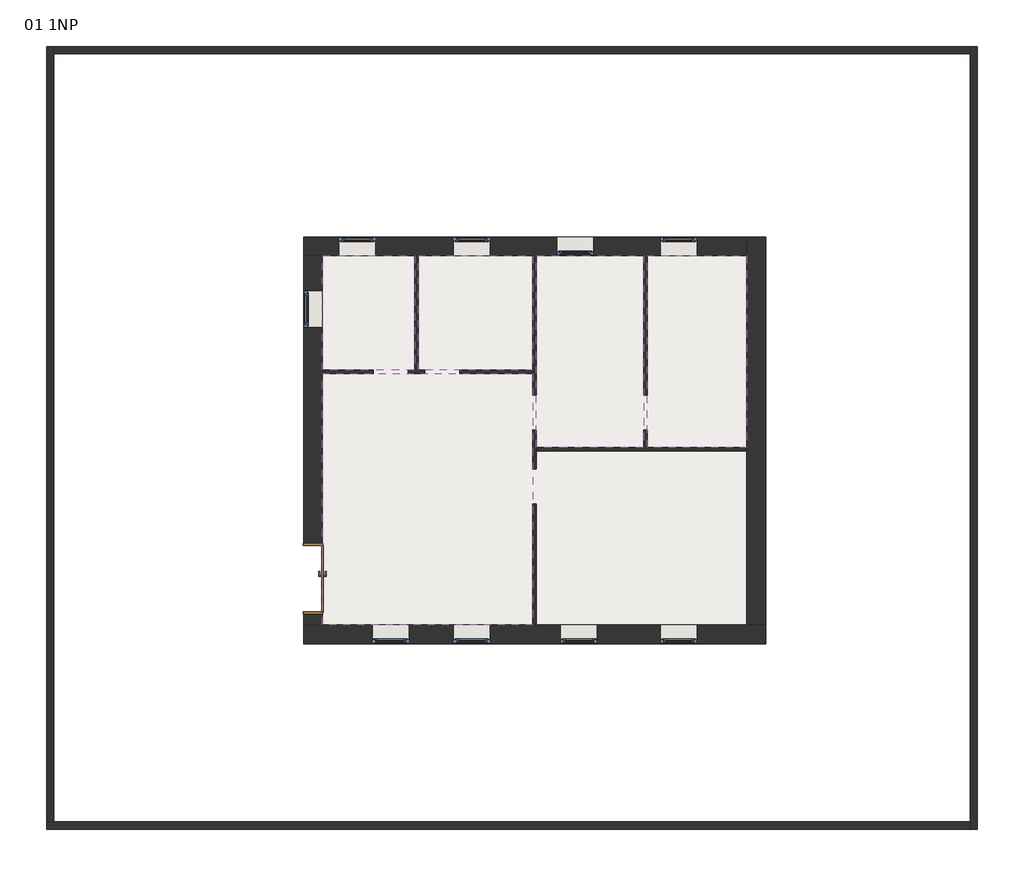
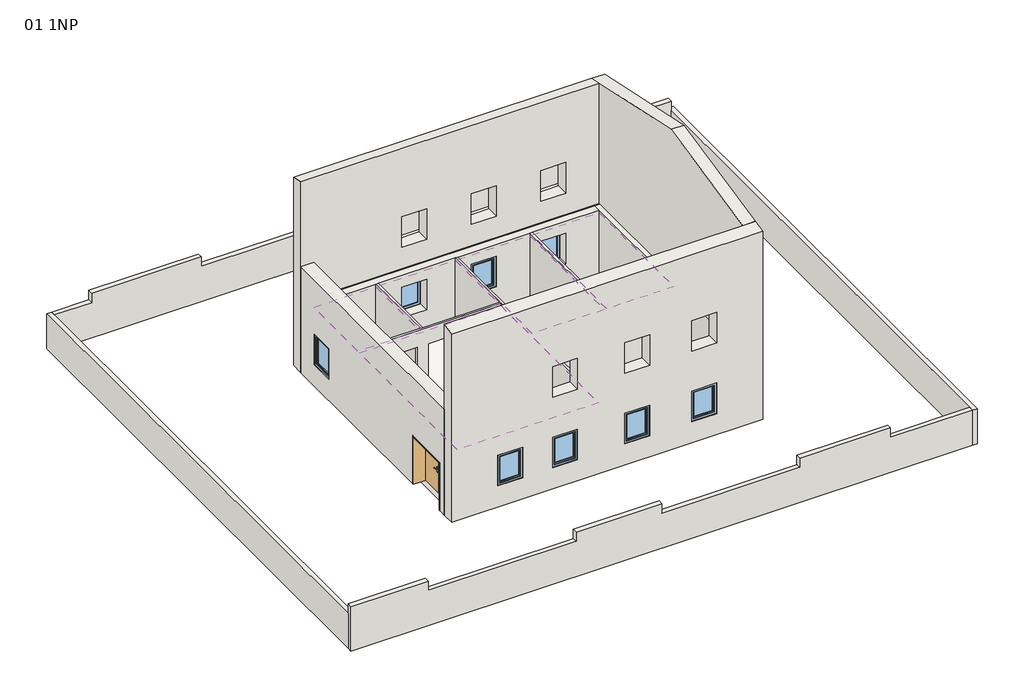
# One storey, incomplete: 13 walls, 9 windows, 6 coverings, 1 door, 1 slab.
"""IFC4 building model written with IfcOpenShell, lengths in millimetres."""

from ifc_helpers import new_model, si_unit, frame, origin, origin_with_axes, place, context, project, spatial, polyline, outline, extrude, faceted_brep, transform, mapped, element, save
from components import door_1800_x_2000_2bd13d9d, window_1000x1300_4b8b3f88, window_1000x1300_138def9d

model = new_model("IFC4")

# Units and contexts
model_context = context("Model", 3, world=origin())
ifc_project = project(units=[si_unit("LENGTHUNIT", "METRE", prefix="MILLI")], contexts=[model_context])

# Site, building, storey
site = spatial("IfcSite", under=ifc_project)
building = spatial("IfcBuilding", under=site)
storey = spatial("IfcBuildingStorey", under=building, Name="01 1NP", Elevation=0.0)

# Coverings
placement = place(None, origin())
element("IfcCovering", 1, ObjectType="Strop 1", at=placement, inside=storey, context=model_context, shape_type="SweptSolid", body=[
    extrude(outline(polyline([(30688.4387685, 21767.0937321), (28193.4387685, 21767.0937321), (28193.4387685, 24862.0937321), (30688.4387685, 24862.0937321), (30688.4387685, 21767.0937321)])), frame((0.0, 0.0, 2600.0), z_axis=(0.0, 0.0, 1.0), x_axis=(1.0, 0.0, 0.0)), (0.0, 0.0, 1.0), 100.0),
])
element("IfcCovering", 2, ObjectType="Strop 1", at=placement, inside=storey, context=model_context, shape_type="SweptSolid", body=[
    extrude(outline(polyline([(30688.4387685, 21767.0937321), (28193.4387685, 21767.0937321), (28193.4387685, 24862.0937321), (30688.4387685, 24862.0937321), (30688.4387685, 21767.0937321)])), frame((0.0, 0.0, 2600.0), z_axis=(0.0, 0.0, 1.0), x_axis=(1.0, 0.0, 0.0)), (0.0, 0.0, 1.0), 100.0),
])
element("IfcCovering", 3, ObjectType="Strop 1", at=placement, inside=storey, context=model_context, shape_type="SweptSolid", body=[
    extrude(outline(polyline([(30788.4387685, 21767.0937321), (30788.4387685, 24862.0937321), (33888.4387685, 24862.0937321), (33888.4387685, 21767.0937321), (30788.4387685, 21767.0937321)])), frame((0.0, 0.0, 2600.0), z_axis=(0.0, 0.0, 1.0), x_axis=(1.0, 0.0, 0.0)), (0.0, 0.0, 1.0), 100.0),
])
element("IfcCovering", 4, ObjectType="Strop 1", at=placement, inside=storey, context=model_context, shape_type="SweptSolid", body=[
    extrude(outline(polyline([(33988.4387685, 24862.0937321), (36888.4387685, 24862.0937321), (36888.4387685, 19667.0937321), (33988.4387685, 19667.0937321), (33988.4387685, 24862.0937321)])), frame((0.0, 0.0, 2600.0), z_axis=(0.0, 0.0, 1.0), x_axis=(1.0, 0.0, 0.0)), (0.0, 0.0, 1.0), 100.0),
])
element("IfcCovering", 5, ObjectType="Strop 1", at=placement, inside=storey, context=model_context, shape_type="SweptSolid", body=[
    extrude(outline(polyline([(36988.4387685, 24862.0937321), (39683.4387685, 24862.0937321), (39683.4387685, 19667.0937321), (36988.4387685, 19667.0937321), (36988.4387685, 24862.0937321)])), frame((0.0, 0.0, 2600.0), z_axis=(0.0, 0.0, 1.0), x_axis=(1.0, 0.0, 0.0)), (0.0, 0.0, 1.0), 100.0),
])
element("IfcCovering", 6, ObjectType="Strop 1", at=placement, inside=storey, context=model_context, shape_type="SweptSolid", body=[
    extrude(outline(polyline([(33888.4387685, 21667.0937321), (33888.4387685, 14862.0937321), (28193.4387685, 14862.0937321), (28193.4387685, 21667.0937321), (33888.4387685, 21667.0937321)])), frame((0.0, 0.0, 2600.0), z_axis=(0.0, 0.0, 1.0), x_axis=(1.0, 0.0, 0.0)), (0.0, 0.0, 1.0), 100.0),
])

# Door
door_1800_x_2000_shape = door_1800_x_2000_2bd13d9d(model_context)
element("IfcDoor", 7, ObjectType="Dvoukridle oboustrana zaruben : 1800 x 2000", at=placement, inside=storey, context=model_context, shape_type="MappedRepresentation", body=[
    mapped(door_1800_x_2000_shape, transform((27938.4387685, 16097.0937321, 0.0), x_axis=(0.0, -1.0, 0.0), y_axis=(1.0, 0.0, 0.0), z_axis=(0.0, 0.0, 1.0))),
])

# Slab
element("IfcSlab", 8, ObjectType="Standardní 300 mm", at=placement, inside=storey, context=model_context, shape_type="SweptSolid", body=[
    extrude(outline(polyline([(28183.4387685, 14852.0937321), (28183.4387685, 24872.0937321), (39693.4387685, 24872.0937321), (39693.4387685, 14852.0937321), (28183.4387685, 14852.0937321)])), frame((0.0, 0.0, -300.0), z_axis=(0.0, 0.0, 1.0), x_axis=(1.0, 0.0, 0.0)), (0.0, 0.0, 1.0), 300.0),
])

# Walls
element("IfcWall", 9, ObjectType="SENDWIX L 510mm", at=placement, inside=storey, context=model_context, shape_type="Brep", body=[
    faceted_brep([(27683.4387685, 14352.0937321, 0.0), (40193.4387685, 14352.0937321, 0.0), (40193.4387685, 14352.0937321, 8000.0), (27683.4387685, 14352.0937321, 8000.0), (29538.4387685, 14352.0937321, 2200.0), (30538.4387685, 14352.0937321, 2200.0), (30538.4387685, 14352.0937321, 900.0), (29538.4387685, 14352.0937321, 900.0), (32738.4387685, 14352.0937321, 2200.0), (32738.4387685, 14352.0937321, 900.0), (31738.4387685, 14352.0937321, 900.0), (31738.4387685, 14352.0937321, 2200.0), (35638.4387685, 14352.0937321, 2200.0), (35638.4387685, 14352.0937321, 900.0), (34638.4387685, 14352.0937321, 900.0), (34638.4387685, 14352.0937321, 2200.0), (38338.4387685, 14352.0937321, 2200.0), (38338.4387685, 14352.0937321, 900.0), (37338.4387685, 14352.0937321, 900.0), (37338.4387685, 14352.0937321, 2200.0), (32738.4387685, 14352.0937321, 5200.0), (32738.4387685, 14352.0937321, 3900.0), (31738.4387685, 14352.0937321, 3900.0), (31738.4387685, 14352.0937321, 5200.0), (35638.4387685, 14352.0937321, 5200.0), (35638.4387685, 14352.0937321, 3900.0), (34638.4387685, 14352.0937321, 3900.0), (34638.4387685, 14352.0937321, 5200.0), (38338.4387685, 14352.0937321, 5200.0), (38338.4387685, 14352.0937321, 3900.0), (37338.4387685, 14352.0937321, 3900.0), (37338.4387685, 14352.0937321, 5200.0), (40193.4387685, 14862.0937321, 0.0), (39683.4387685, 14862.0937321, 0.0), (33988.4387685, 14862.0937321, 0.0), (33888.4387685, 14862.0937321, 0.0), (28193.4387685, 14862.0937321, 0.0), (27683.4387685, 14862.0937321, 0.0), (27683.4387685, 14862.0937321, 4500.0), (27683.4387685, 14862.0937321, 8108.4038465), (39683.4387685, 14862.0937321, 8108.4038465), (40193.4387685, 14862.0937321, 8108.4038465), (30538.4387685, 14862.0937321, 2200.0), (29538.4387685, 14862.0937321, 2200.0), (29538.4387685, 14862.0937321, 900.0), (30538.4387685, 14862.0937321, 900.0), (32738.4387685, 14862.0937321, 900.0), (32738.4387685, 14862.0937321, 2200.0), (31738.4387685, 14862.0937321, 2200.0), (31738.4387685, 14862.0937321, 900.0), (35638.4387685, 14862.0937321, 900.0), (35638.4387685, 14862.0937321, 2200.0), (34638.4387685, 14862.0937321, 2200.0), (34638.4387685, 14862.0937321, 900.0), (38338.4387685, 14862.0937321, 900.0), (38338.4387685, 14862.0937321, 2200.0), (37338.4387685, 14862.0937321, 2200.0), (37338.4387685, 14862.0937321, 900.0), (32738.4387685, 14862.0937321, 3900.0), (32738.4387685, 14862.0937321, 5200.0), (31738.4387685, 14862.0937321, 5200.0), (31738.4387685, 14862.0937321, 3900.0), (35638.4387685, 14862.0937321, 3900.0), (35638.4387685, 14862.0937321, 5200.0), (34638.4387685, 14862.0937321, 5200.0), (34638.4387685, 14862.0937321, 3900.0), (38338.4387685, 14862.0937321, 3900.0), (38338.4387685, 14862.0937321, 5200.0), (37338.4387685, 14862.0937321, 5200.0), (37338.4387685, 14862.0937321, 3900.0), (27883.4387685, 14862.0937321, 2700.0), (28193.4387685, 14862.0937321, 2700.0), (33888.4387685, 14862.0937321, 2700.0), (33988.4387685, 14862.0937321, 2700.0), (39683.4387685, 14862.0937321, 2700.0), (39993.4387685, 14862.0937321, 2700.0), (39993.4387685, 14862.0937321, 3000.0), (39683.4387685, 14862.0937321, 3000.0), (28193.4387685, 14862.0937321, 3000.0), (27883.4387685, 14862.0937321, 3000.0), (27883.4387685, 14552.0937321, 2700.0), (39993.4387685, 14552.0937321, 2700.0), (39993.4387685, 14552.0937321, 3000.0), (27883.4387685, 14552.0937321, 3000.0)], [[[0, 1, 2, 3], [4, 5, 6, 7], [8, 9, 10, 11], [12, 13, 14, 15], [16, 17, 18, 19], [20, 21, 22, 23], [24, 25, 26, 27], [28, 29, 30, 31]], [[32, 33, 34, 35, 36, 37, 38, 39, 40, 41], [42, 43, 44, 45], [46, 47, 48, 49], [50, 51, 52, 53], [54, 55, 56, 57], [58, 59, 60, 61], [62, 63, 64, 65], [66, 67, 68, 69], [70, 71, 72, 73, 74, 75, 76, 77, 78, 79]], [[1, 0, 37, 36, 35, 34, 33, 32]], [[0, 3, 39, 38, 37]], [[2, 1, 32, 41]], [[3, 2, 41, 40, 39]], [[43, 4, 7, 44]], [[4, 43, 42, 5]], [[5, 42, 45, 6]], [[6, 45, 44, 7]], [[47, 46, 9, 8]], [[48, 47, 8, 11]], [[49, 48, 11, 10]], [[46, 49, 10, 9]], [[51, 50, 13, 12]], [[52, 51, 12, 15]], [[53, 52, 15, 14]], [[50, 53, 14, 13]], [[55, 54, 17, 16]], [[56, 55, 16, 19]], [[57, 56, 19, 18]], [[54, 57, 18, 17]], [[59, 58, 21, 20]], [[60, 59, 20, 23]], [[61, 60, 23, 22]], [[58, 61, 22, 21]], [[63, 62, 25, 24]], [[64, 63, 24, 27]], [[65, 64, 27, 26]], [[62, 65, 26, 25]], [[67, 66, 29, 28]], [[68, 67, 28, 31]], [[69, 68, 31, 30]], [[66, 69, 30, 29]], [[80, 81, 75, 74, 73, 72, 71, 70]], [[82, 83, 79, 78, 77, 76]], [[83, 80, 70, 79]], [[81, 82, 76, 75]], [[81, 80, 83, 82]]]),
])
element("IfcWall", 10, ObjectType="SENDWIX L 510mm", at=placement, inside=storey, context=model_context, shape_type="Brep", body=[
    faceted_brep([(27683.4387685, 14862.0937321, 4500.0), (27683.4387685, 24862.0937321, 4500.0), (27683.4387685, 24862.0937321, 0.0), (27683.4387685, 17067.0937321, 0.0), (27683.4387685, 17067.0937321, 2050.0), (27683.4387685, 15167.0937321, 2050.0), (27683.4387685, 15167.0937321, 0.0), (27683.4387685, 14862.0937321, 0.0), (27683.4387685, 22917.0937321, 2200.0), (27683.4387685, 22917.0937321, 900.0), (27683.4387685, 23917.0937321, 900.0), (27683.4387685, 23917.0937321, 2200.0), (28193.4387685, 24862.0937321, 4500.0), (28193.4387685, 14862.0937321, 4500.0), (28193.4387685, 14862.0937321, 3000.0), (28193.4387685, 24862.0937321, 3000.0), (28193.4387685, 15167.0937321, 0.0), (28193.4387685, 15167.0937321, 2050.0), (28193.4387685, 17067.0937321, 2050.0), (28193.4387685, 17067.0937321, 0.0), (28193.4387685, 21667.0937321, 0.0), (28193.4387685, 21767.0937321, 0.0), (28193.4387685, 24862.0937321, 0.0), (28193.4387685, 24862.0937321, 2700.0), (28193.4387685, 21767.0937321, 2700.0), (28193.4387685, 21667.0937321, 2700.0), (28193.4387685, 14862.0937321, 2700.0), (28193.4387685, 14862.0937321, 0.0), (28193.4387685, 22917.0937321, 900.0), (28193.4387685, 22917.0937321, 2200.0), (28193.4387685, 23917.0937321, 2200.0), (28193.4387685, 23917.0937321, 900.0), (27883.4387685, 24862.0937321, 3000.0), (27883.4387685, 24862.0937321, 2700.0), (27883.4387685, 14862.0937321, 2700.0), (27883.4387685, 14862.0937321, 3000.0)], [[[0, 1, 2, 3, 4, 5, 6, 7], [8, 9, 10, 11]], [[12, 13, 14, 15]], [[16, 17, 18, 19, 20, 21, 22, 23, 24, 25, 26, 27], [28, 29, 30, 31]], [[2, 22, 21, 20, 19, 3]], [[27, 7, 6, 16]], [[1, 0, 13, 12]], [[2, 1, 12, 15, 32, 33, 23, 22]], [[0, 7, 27, 26, 34, 35, 14, 13]], [[17, 16, 6, 5]], [[18, 17, 5, 4]], [[19, 18, 4, 3]], [[29, 28, 9, 8]], [[30, 29, 8, 11]], [[31, 30, 11, 10]], [[28, 31, 10, 9]], [[33, 34, 26, 25, 24, 23]], [[35, 32, 15, 14]], [[34, 33, 32, 35]]]),
])
element("IfcWall", 11, ObjectType="SENDWIX L 510mm", at=placement, inside=storey, context=model_context, shape_type="Brep", body=[
    faceted_brep([(39683.4387685, 25372.0937321, 0.0), (27683.4387685, 25372.0937321, 0.0), (27683.4387685, 25372.0937321, 8000.0), (39683.4387685, 25372.0937321, 8000.0), (29638.4387685, 25372.0937321, 2200.0), (28638.4387685, 25372.0937321, 2200.0), (28638.4387685, 25372.0937321, 900.0), (29638.4387685, 25372.0937321, 900.0), (32738.4387685, 25372.0937321, 900.0), (32738.4387685, 25372.0937321, 2200.0), (31738.4387685, 25372.0937321, 2200.0), (31738.4387685, 25372.0937321, 900.0), (35538.4387685, 25372.0937321, 900.0), (35538.4387685, 25372.0937321, 2200.0), (34538.4387685, 25372.0937321, 2200.0), (34538.4387685, 25372.0937321, 900.0), (38338.4387685, 25372.0937321, 900.0), (38338.4387685, 25372.0937321, 2200.0), (37338.4387685, 25372.0937321, 2200.0), (37338.4387685, 25372.0937321, 900.0), (32738.4387685, 25372.0937321, 3900.0), (32738.4387685, 25372.0937321, 5200.0), (31738.4387685, 25372.0937321, 5200.0), (31738.4387685, 25372.0937321, 3900.0), (35538.4387685, 25372.0937321, 3900.0), (35538.4387685, 25372.0937321, 5200.0), (34538.4387685, 25372.0937321, 5200.0), (34538.4387685, 25372.0937321, 3900.0), (38338.4387685, 25372.0937321, 3900.0), (38338.4387685, 25372.0937321, 5200.0), (37338.4387685, 25372.0937321, 5200.0), (37338.4387685, 25372.0937321, 3900.0), (27683.4387685, 24862.0937321, 0.0), (28193.4387685, 24862.0937321, 0.0), (30688.4387685, 24862.0937321, 0.0), (30788.4387685, 24862.0937321, 0.0), (33888.4387685, 24862.0937321, 0.0), (33988.4387685, 24862.0937321, 0.0), (36888.4387685, 24862.0937321, 0.0), (36988.4387685, 24862.0937321, 0.0), (39683.4387685, 24862.0937321, 0.0), (39683.4387685, 24862.0937321, 2700.0), (36988.4387685, 24862.0937321, 2700.0), (36888.4387685, 24862.0937321, 2700.0), (33988.4387685, 24862.0937321, 2700.0), (33888.4387685, 24862.0937321, 2700.0), (30788.4387685, 24862.0937321, 2700.0), (30688.4387685, 24862.0937321, 2700.0), (28193.4387685, 24862.0937321, 2700.0), (27883.4387685, 24862.0937321, 2700.0), (27883.4387685, 24862.0937321, 3000.0), (28193.4387685, 24862.0937321, 3000.0), (39683.4387685, 24862.0937321, 3000.0), (39683.4387685, 24862.0937321, 8108.4038465), (27683.4387685, 24862.0937321, 8108.4038465), (27683.4387685, 24862.0937321, 4500.0), (28638.4387685, 24862.0937321, 2200.0), (29638.4387685, 24862.0937321, 2200.0), (29638.4387685, 24862.0937321, 900.0), (28638.4387685, 24862.0937321, 900.0), (32738.4387685, 24862.0937321, 2200.0), (32738.4387685, 24862.0937321, 900.0), (31738.4387685, 24862.0937321, 900.0), (31738.4387685, 24862.0937321, 2200.0), (35538.4387685, 24862.0937321, 2200.0), (35538.4387685, 24862.0937321, 900.0), (34538.4387685, 24862.0937321, 900.0), (34538.4387685, 24862.0937321, 2200.0), (38338.4387685, 24862.0937321, 2200.0), (38338.4387685, 24862.0937321, 900.0), (37338.4387685, 24862.0937321, 900.0), (37338.4387685, 24862.0937321, 2200.0), (32738.4387685, 24862.0937321, 5200.0), (32738.4387685, 24862.0937321, 3900.0), (31738.4387685, 24862.0937321, 3900.0), (31738.4387685, 24862.0937321, 5200.0), (35538.4387685, 24862.0937321, 5200.0), (35538.4387685, 24862.0937321, 3900.0), (34538.4387685, 24862.0937321, 3900.0), (34538.4387685, 24862.0937321, 5200.0), (38338.4387685, 24862.0937321, 5200.0), (38338.4387685, 24862.0937321, 3900.0), (37338.4387685, 24862.0937321, 3900.0), (37338.4387685, 24862.0937321, 5200.0), (39683.4387685, 25172.0937321, 3000.0), (39683.4387685, 25172.0937321, 2700.0), (27883.4387685, 25172.0937321, 2700.0), (27883.4387685, 25172.0937321, 3000.0)], [[[0, 1, 2, 3], [4, 5, 6, 7], [8, 9, 10, 11], [12, 13, 14, 15], [16, 17, 18, 19], [20, 21, 22, 23], [24, 25, 26, 27], [28, 29, 30, 31]], [[32, 33, 34, 35, 36, 37, 38, 39, 40, 41, 42, 43, 44, 45, 46, 47, 48, 49, 50, 51, 52, 53, 54, 55], [56, 57, 58, 59], [60, 61, 62, 63], [64, 65, 66, 67], [68, 69, 70, 71], [72, 73, 74, 75], [76, 77, 78, 79], [80, 81, 82, 83]], [[1, 0, 40, 39, 38, 37, 36, 35, 34, 33, 32]], [[2, 1, 32, 55, 54]], [[0, 3, 53, 52, 84, 85, 41, 40]], [[3, 2, 54, 53]], [[5, 56, 59, 6]], [[56, 5, 4, 57]], [[57, 4, 7, 58]], [[58, 7, 6, 59]], [[9, 8, 61, 60]], [[10, 9, 60, 63]], [[11, 10, 63, 62]], [[8, 11, 62, 61]], [[13, 12, 65, 64]], [[14, 13, 64, 67]], [[15, 14, 67, 66]], [[12, 15, 66, 65]], [[17, 16, 69, 68]], [[18, 17, 68, 71]], [[19, 18, 71, 70]], [[16, 19, 70, 69]], [[21, 20, 73, 72]], [[22, 21, 72, 75]], [[23, 22, 75, 74]], [[20, 23, 74, 73]], [[25, 24, 77, 76]], [[26, 25, 76, 79]], [[27, 26, 79, 78]], [[24, 27, 78, 77]], [[29, 28, 81, 80]], [[30, 29, 80, 83]], [[31, 30, 83, 82]], [[28, 31, 82, 81]], [[85, 86, 49, 48, 47, 46, 45, 44, 43, 42, 41]], [[50, 87, 84, 52, 51]], [[86, 87, 50, 49]], [[87, 86, 85, 84]]]),
])
element("IfcWall", 12, ObjectType="SENDWIX L 510mm", at=placement, inside=storey, context=model_context, shape_type="Brep", body=[
    faceted_brep([(40193.4387685, 14862.0937321, 0.0), (40193.4387685, 25372.0937321, 0.0), (40193.4387685, 25372.0937321, 8000.0), (40193.4387685, 19862.0937321, 9171.1866548), (40193.4387685, 14862.0937321, 8108.4038465), (39683.4387685, 25372.0937321, 0.0), (39683.4387685, 24862.0937321, 0.0), (39683.4387685, 19667.0937321, 0.0), (39683.4387685, 19567.0937321, 0.0), (39683.4387685, 14862.0937321, 0.0), (39683.4387685, 14862.0937321, 2700.0), (39683.4387685, 19567.0937321, 2700.0), (39683.4387685, 19667.0937321, 2700.0), (39683.4387685, 24862.0937321, 2700.0), (39683.4387685, 25172.0937321, 2700.0), (39683.4387685, 25172.0937321, 3000.0), (39683.4387685, 24862.0937321, 3000.0), (39683.4387685, 14862.0937321, 3000.0), (39683.4387685, 14862.0937321, 8108.4038465), (39683.4387685, 19862.0937321, 9171.1866548), (39683.4387685, 24862.0937321, 8108.4038465), (39683.4387685, 25372.0937321, 8000.0), (39993.4387685, 14862.0937321, 3000.0), (39993.4387685, 14862.0937321, 2700.0), (39993.4387685, 25172.0937321, 2700.0), (39993.4387685, 25172.0937321, 3000.0)], [[[0, 1, 2, 3, 4]], [[5, 6, 7, 8, 9, 10, 11, 12, 13, 14, 15, 16, 17, 18, 19, 20, 21]], [[1, 0, 9, 8, 7, 6, 5]], [[2, 1, 5, 21]], [[0, 4, 18, 17, 22, 23, 10, 9]], [[18, 4, 3, 19]], [[2, 21, 20, 19, 3]], [[23, 24, 14, 13, 12, 11, 10]], [[15, 25, 22, 17, 16]], [[24, 25, 15, 14]], [[25, 24, 23, 22]]]),
])
element("IfcWall", 13, ObjectType="Standardní 100mm", at=placement, inside=storey, context=model_context, shape_type="Brep", body=[
    faceted_brep([(33988.4387685, 14862.0937321, 0.0), (33988.4387685, 18142.0937321, 0.0), (33988.4387685, 18142.0937321, 2020.0), (33988.4387685, 19092.0937321, 2020.0), (33988.4387685, 19092.0937321, 0.0), (33988.4387685, 19567.0937321, 0.0), (33988.4387685, 19667.0937321, 0.0), (33988.4387685, 20142.0937321, 0.0), (33988.4387685, 20142.0937321, 2020.0), (33988.4387685, 21092.0937321, 2020.0), (33988.4387685, 21092.0937321, 0.0), (33988.4387685, 24862.0937321, 0.0), (33988.4387685, 24862.0937321, 2700.0), (33988.4387685, 19667.0937321, 2700.0), (33988.4387685, 19567.0937321, 2700.0), (33988.4387685, 14862.0937321, 2700.0), (33888.4387685, 18142.0937321, 2020.0), (33888.4387685, 18142.0937321, 0.0), (33888.4387685, 14862.0937321, 0.0), (33888.4387685, 14862.0937321, 2700.0), (33888.4387685, 21667.0937321, 2700.0), (33888.4387685, 21767.0937321, 2700.0), (33888.4387685, 24862.0937321, 2700.0), (33888.4387685, 24862.0937321, 0.0), (33888.4387685, 21767.0937321, 0.0), (33888.4387685, 21667.0937321, 0.0), (33888.4387685, 21092.0937321, 0.0), (33888.4387685, 21092.0937321, 2020.0), (33888.4387685, 20142.0937321, 2020.0), (33888.4387685, 20142.0937321, 0.0), (33888.4387685, 19092.0937321, 0.0), (33888.4387685, 19092.0937321, 2020.0)], [[[0, 1, 2, 3, 4, 5, 6, 7, 8, 9, 10, 11, 12, 13, 14, 15]], [[16, 17, 18, 19, 20, 21, 22, 23, 24, 25, 26, 27, 28, 29, 30, 31]], [[11, 10, 26, 25, 24, 23]], [[18, 17, 1, 0]], [[30, 29, 7, 6, 5, 4]], [[0, 15, 19, 18]], [[12, 11, 23, 22]], [[15, 14, 13, 12, 22, 21, 20, 19]], [[27, 26, 10, 9]], [[28, 27, 9, 8]], [[29, 28, 8, 7]], [[2, 1, 17, 16]], [[3, 2, 16, 31]], [[4, 3, 31, 30]]]),
])
element("IfcWall", 14, ObjectType="Standardní 100mm", at=placement, inside=storey, context=model_context, shape_type="Brep", body=[
    faceted_brep([(33988.4387685, 19567.0937321, 0.0), (39683.4387685, 19567.0937321, 0.0), (39683.4387685, 19567.0937321, 2700.0), (33988.4387685, 19567.0937321, 2700.0), (33988.4387685, 19667.0937321, 0.0), (33988.4387685, 19667.0937321, 2700.0), (36888.4387685, 19667.0937321, 2700.0), (36988.4387685, 19667.0937321, 2700.0), (39683.4387685, 19667.0937321, 2700.0), (39683.4387685, 19667.0937321, 0.0), (36988.4387685, 19667.0937321, 0.0), (36888.4387685, 19667.0937321, 0.0)], [[[0, 1, 2, 3]], [[4, 5, 6, 7, 8, 9, 10, 11]], [[1, 0, 4, 11, 10, 9]], [[2, 1, 9, 8]], [[0, 3, 5, 4]], [[3, 2, 8, 7, 6, 5]]]),
])
element("IfcWall", 15, ObjectType="Standardní 100mm", at=placement, inside=storey, context=model_context, shape_type="Brep", body=[
    faceted_brep([(31913.4387685, 21667.0937321, 2020.0), (31913.4387685, 21667.0937321, 0.0), (33888.4387685, 21667.0937321, 0.0), (33888.4387685, 21667.0937321, 2700.0), (28193.4387685, 21667.0937321, 2700.0), (28193.4387685, 21667.0937321, 0.0), (29563.4387685, 21667.0937321, 0.0), (29563.4387685, 21667.0937321, 2020.0), (30513.4387685, 21667.0937321, 2020.0), (30513.4387685, 21667.0937321, 0.0), (30963.4387685, 21667.0937321, 0.0), (30963.4387685, 21667.0937321, 2020.0), (33888.4387685, 21767.0937321, 0.0), (31913.4387685, 21767.0937321, 0.0), (31913.4387685, 21767.0937321, 2020.0), (30963.4387685, 21767.0937321, 2020.0), (30963.4387685, 21767.0937321, 0.0), (30788.4387685, 21767.0937321, 0.0), (30688.4387685, 21767.0937321, 0.0), (30513.4387685, 21767.0937321, 0.0), (30513.4387685, 21767.0937321, 2020.0), (29563.4387685, 21767.0937321, 2020.0), (29563.4387685, 21767.0937321, 0.0), (28193.4387685, 21767.0937321, 0.0), (28193.4387685, 21767.0937321, 2700.0), (30688.4387685, 21767.0937321, 2700.0), (30788.4387685, 21767.0937321, 2700.0), (33888.4387685, 21767.0937321, 2700.0)], [[[0, 1, 2, 3, 4, 5, 6, 7, 8, 9, 10, 11]], [[12, 13, 14, 15, 16, 17, 18, 19, 20, 21, 22, 23, 24, 25, 26, 27]], [[23, 22, 6, 5]], [[2, 1, 13, 12]], [[10, 9, 19, 18, 17, 16]], [[5, 4, 24, 23]], [[3, 2, 12, 27]], [[4, 3, 27, 26, 25, 24]], [[7, 6, 22, 21]], [[8, 7, 21, 20]], [[9, 8, 20, 19]], [[14, 13, 1, 0]], [[15, 14, 0, 11]], [[16, 15, 11, 10]]]),
])
element("IfcWall", 16, ObjectType="Standardní 100mm", at=placement, inside=storey, context=model_context, shape_type="SweptSolid", body=[
    extrude(outline(polyline([(30688.4387685, 21767.0937321), (30688.4387685, 24862.0937321), (30788.4387685, 24862.0937321), (30788.4387685, 21767.0937321), (30688.4387685, 21767.0937321)])), origin_with_axes(), (0.0, 0.0, 1.0), 2700.0),
])
element("IfcWall", 17, ObjectType="Standardní 100mm", at=placement, inside=storey, context=model_context, shape_type="SweptSolid", body=[
    extrude(outline(polyline([(24862.0937321, 0.0), (21092.0937321, 0.0), (21092.0937321, 2020.0), (20142.0937321, 2020.0), (20142.0937321, 0.0), (19667.0937321, 0.0), (19667.0937321, 2700.0), (24862.0937321, 2700.0), (24862.0937321, 0.0)])), frame((36888.4387685, 0.0, 0.0), z_axis=(1.0, 0.0, 0.0), x_axis=(0.0, 1.0, 0.0)), (0.0, 0.0, 1.0), 100.0),
])
element("IfcWall", 18, ObjectType="Standardní 200mm", at=placement, inside=storey, context=model_context, shape_type="Brep", body=[
    faceted_brep([(20725.9805266, 9328.6746837, 0.0), (45725.9805266, 9328.6746837, 0.0), (45725.9805266, 9328.6746837, 1500.0), (42425.9805266, 9328.6746837, 1500.0), (42425.9805266, 9328.6746837, 1900.0), (38769.4032946, 9328.6746837, 1900.0), (38769.4032946, 9328.6746837, 1500.0), (33236.1851019, 9328.6746837, 1500.0), (33236.1851019, 9328.6746837, 1900.0), (29781.1194066, 9328.6746837, 1900.0), (29781.1194066, 9328.6746837, 1500.0), (23838.5703533, 9328.6746837, 1500.0), (23838.5703533, 9328.6746837, 1900.0), (20725.9805266, 9328.6746837, 1900.0), (20725.9805266, 9528.6746837, 0.0), (20725.9805266, 9528.6746837, 1500.0), (20725.9805266, 9528.6746837, 1900.0), (23838.5703533, 9528.6746837, 1900.0), (23838.5703533, 9528.6746837, 1500.0), (29781.1194066, 9528.6746837, 1500.0), (29781.1194066, 9528.6746837, 1900.0), (33236.1851019, 9528.6746837, 1900.0), (33236.1851019, 9528.6746837, 1500.0), (38769.4032946, 9528.6746837, 1500.0), (38769.4032946, 9528.6746837, 1900.0), (42425.9805266, 9528.6746837, 1900.0), (42425.9805266, 9528.6746837, 1500.0), (45725.9805266, 9528.6746837, 1500.0), (45725.9805266, 9528.6746837, 0.0), (20925.9805266, 9528.6746837, 0.0)], [[[0, 1, 2, 3, 4, 5, 6, 7, 8, 9, 10, 11, 12, 13]], [[14, 15, 16, 17, 18, 19, 20, 21, 22, 23, 24, 25, 26, 27, 28, 29]], [[1, 0, 14, 29, 28]], [[3, 2, 27, 26]], [[4, 3, 26, 25]], [[5, 4, 25, 24]], [[6, 5, 24, 23]], [[7, 6, 23, 22]], [[8, 7, 22, 21]], [[9, 8, 21, 20]], [[10, 9, 20, 19]], [[11, 10, 19, 18]], [[12, 11, 18, 17]], [[13, 12, 17, 16]], [[0, 13, 16, 15, 14]], [[2, 1, 28, 27]]]),
])
element("IfcWall", 19, ObjectType="Standardní 200mm", at=placement, inside=storey, context=model_context, shape_type="Brep", body=[
    faceted_brep([(20725.9805266, 30528.6746837, 0.0), (20725.9805266, 9528.6746837, 0.0), (20725.9805266, 9528.6746837, 1500.0), (20725.9805266, 30528.6746837, 1500.0), (20925.9805266, 30528.6746837, 0.0), (20925.9805266, 30528.6746837, 1500.0), (20925.9805266, 30328.6746837, 1500.0), (20925.9805266, 9528.6746837, 1500.0), (20925.9805266, 9528.6746837, 0.0), (20925.9805266, 30328.6746837, 0.0)], [[[0, 1, 2, 3]], [[4, 5, 6, 7, 8, 9]], [[1, 0, 4, 9, 8]], [[3, 2, 7, 6, 5]], [[0, 3, 5, 4]], [[2, 1, 8, 7]]]),
])
element("IfcWall", 20, ObjectType="Standardní 200mm", at=placement, inside=storey, context=model_context, shape_type="Brep", body=[
    faceted_brep([(45725.9805266, 30528.6746837, 0.0), (20925.9805266, 30528.6746837, 0.0), (20925.9805266, 30528.6746837, 1500.0), (22425.9805266, 30528.6746837, 1500.0), (22425.9805266, 30528.6746837, 1900.0), (26825.9805266, 30528.6746837, 1900.0), (26825.9805266, 30528.6746837, 1500.0), (31825.9805266, 30528.6746837, 1500.0), (31825.9805266, 30528.6746837, 1900.0), (36425.9805266, 30528.6746837, 1900.0), (36425.9805266, 30528.6746837, 1500.0), (42425.9805266, 30528.6746837, 1500.0), (42425.9805266, 30528.6746837, 1900.0), (45725.9805266, 30528.6746837, 1900.0), (45725.9805266, 30528.6746837, 1500.0), (45725.9805266, 30328.6746837, 0.0), (45725.9805266, 30328.6746837, 1900.0), (42425.9805266, 30328.6746837, 1900.0), (42425.9805266, 30328.6746837, 1500.0), (36425.9805266, 30328.6746837, 1500.0), (36425.9805266, 30328.6746837, 1900.0), (31825.9805266, 30328.6746837, 1900.0), (31825.9805266, 30328.6746837, 1500.0), (26825.9805266, 30328.6746837, 1500.0), (26825.9805266, 30328.6746837, 1900.0), (22425.9805266, 30328.6746837, 1900.0), (22425.9805266, 30328.6746837, 1500.0), (20925.9805266, 30328.6746837, 1500.0), (20925.9805266, 30328.6746837, 0.0)], [[[0, 1, 2, 3, 4, 5, 6, 7, 8, 9, 10, 11, 12, 13, 14]], [[15, 16, 17, 18, 19, 20, 21, 22, 23, 24, 25, 26, 27, 28]], [[1, 0, 15, 28]], [[3, 2, 27, 26]], [[4, 3, 26, 25]], [[5, 4, 25, 24]], [[6, 5, 24, 23]], [[7, 6, 23, 22]], [[8, 7, 22, 21]], [[9, 8, 21, 20]], [[10, 9, 20, 19]], [[11, 10, 19, 18]], [[12, 11, 18, 17]], [[13, 12, 17, 16]], [[2, 1, 28, 27]], [[0, 14, 13, 16, 15]]]),
])
element("IfcWall", 21, ObjectType="Standardní 200mm", at=placement, inside=storey, context=model_context, shape_type="Brep", body=[
    faceted_brep([(45925.9805266, 9328.6746837, 0.0), (45925.9805266, 30528.6746837, 0.0), (45925.9805266, 30528.6746837, 1500.0), (45925.9805266, 9328.6746837, 1500.0), (45725.9805266, 9328.6746837, 0.0), (45725.9805266, 9328.6746837, 1500.0), (45725.9805266, 9528.6746837, 1500.0), (45725.9805266, 30528.6746837, 1500.0), (45725.9805266, 30528.6746837, 0.0), (45725.9805266, 30328.6746837, 0.0), (45725.9805266, 9528.6746837, 0.0)], [[[0, 1, 2, 3]], [[4, 5, 6, 7, 8, 9, 10]], [[1, 0, 4, 10, 9, 8]], [[3, 2, 7, 6, 5]], [[0, 3, 5, 4]], [[2, 1, 8, 7]]]),
])

# Windows
window_1000x1300_shape = window_1000x1300_4b8b3f88(model_context)
element("IfcWindow", 22, ObjectType="Jednokridlove rovne : 1000x1300", at=placement, inside=storey, context=model_context, shape_type="MappedRepresentation", body=[
    mapped(window_1000x1300_shape, transform((29138.4387685, 25117.0937321, 0.0), x_axis=(1.0, 0.0, 0.0), y_axis=(0.0, 1.0, 0.0), z_axis=(0.0, 0.0, 1.0))),
])
element("IfcWindow", 23, ObjectType="Jednokridlove rovne : 1000x1300", at=placement, inside=storey, context=model_context, shape_type="MappedRepresentation", body=[
    mapped(window_1000x1300_shape, transform((27938.4387685, 23417.0937321, 0.0), x_axis=(0.0, 1.0, 0.0), y_axis=(-1.0, 0.0, 0.0), z_axis=(0.0, 0.0, 1.0))),
])
element("IfcWindow", 24, ObjectType="Jednokridlove rovne : 1000x1300", at=placement, inside=storey, context=model_context, shape_type="MappedRepresentation", body=[
    mapped(window_1000x1300_shape, transform((32238.4387685, 14607.0937321, 0.0), x_axis=(-1.0, 0.0, 0.0), y_axis=(0.0, -1.0, 0.0), z_axis=(0.0, 0.0, 1.0))),
])
element("IfcWindow", 25, ObjectType="Jednokridlove rovne : 1000x1300", at=placement, inside=storey, context=model_context, shape_type="MappedRepresentation", body=[
    mapped(window_1000x1300_shape, transform((35138.4387685, 14607.0937321, 0.0), x_axis=(-1.0, 0.0, 0.0), y_axis=(0.0, -1.0, 0.0), z_axis=(0.0, 0.0, 1.0))),
])
element("IfcWindow", 26, ObjectType="Jednokridlove rovne : 1000x1300", at=placement, inside=storey, context=model_context, shape_type="MappedRepresentation", body=[
    mapped(window_1000x1300_shape, transform((37838.4387685, 14607.0937321, 0.0), x_axis=(-1.0, 0.0, 0.0), y_axis=(0.0, -1.0, 0.0), z_axis=(0.0, 0.0, 1.0))),
])
window_1000x1300_2_shape = window_1000x1300_138def9d(model_context)
element("IfcWindow", 27, ObjectType="Jednokridlove rovne : 1000x1300", at=placement, inside=storey, context=model_context, shape_type="MappedRepresentation", body=[
    mapped(window_1000x1300_2_shape, transform((32238.4387685, 25117.0937321, 0.0), x_axis=(-1.0, 0.0, 0.0), y_axis=(0.0, -1.0, 0.0), z_axis=(0.0, 0.0, 1.0))),
])
element("IfcWindow", 28, ObjectType="Jednokridlove rovne : 1000x1300", at=placement, inside=storey, context=model_context, shape_type="MappedRepresentation", body=[
    mapped(window_1000x1300_2_shape, transform((37838.4387685, 25117.0937321, 0.0), x_axis=(-1.0, 0.0, 0.0), y_axis=(0.0, -1.0, 0.0), z_axis=(0.0, 0.0, 1.0))),
])
element("IfcWindow", 29, ObjectType="Jednokridlove rovne : 1000x1300", at=placement, inside=storey, context=model_context, shape_type="MappedRepresentation", body=[
    mapped(window_1000x1300_2_shape, transform((30038.4387685, 14607.0937321, 0.0), x_axis=(1.0, 0.0, 0.0), y_axis=(0.0, 1.0, 0.0), z_axis=(0.0, 0.0, 1.0))),
])
element("IfcWindow", 30, ObjectType="Jednokridlove rovne : 1000x1300", at=placement, inside=storey, context=model_context, shape_type="MappedRepresentation", body=[
    mapped(window_1000x1300_shape, transform((35038.4387685, 25117.0937321, 0.0), x_axis=(-1.0, 0.0, 0.0), y_axis=(0.0, -1.0, 0.0), z_axis=(0.0, 0.0, 1.0))),
])

save(model, "model.ifc")
